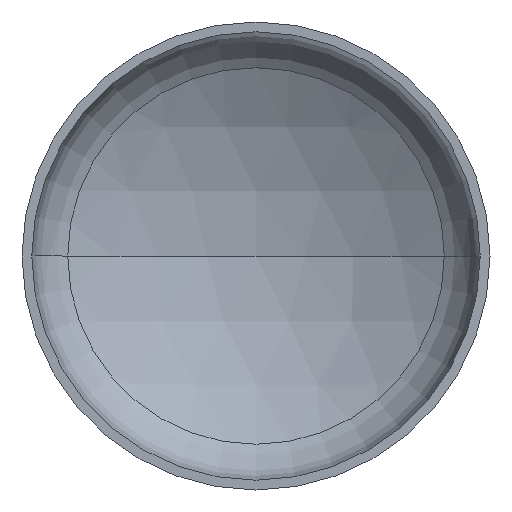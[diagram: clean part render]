
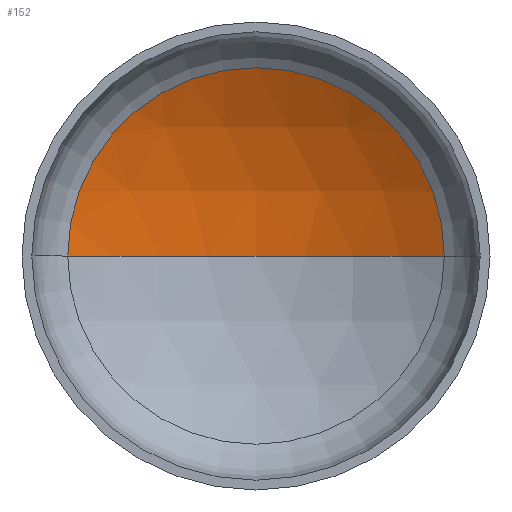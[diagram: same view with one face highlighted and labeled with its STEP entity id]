
A CAD part, front view. The second image highlights one B-rep face of the part: STEP entity #152.
In plain terms, the highlighted spherical face has radius 880 mm.
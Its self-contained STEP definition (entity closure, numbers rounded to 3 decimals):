
#2 = VERTEX_POINT ( 'NONE', #183 ) ;
#9 = AXIS2_PLACEMENT_3D ( 'NONE', #324, #190, #353 ) ;
#12 = AXIS2_PLACEMENT_3D ( 'NONE', #236, #394, #255 ) ;
#21 = AXIS2_PLACEMENT_3D ( 'NONE', #164, #323, #189 ) ;
#25 = ORIENTED_EDGE ( 'NONE', *, *, #368, .T. ) ;
#48 = VERTEX_POINT ( 'NONE', #220 ) ;
#66 = ORIENTED_EDGE ( 'NONE', *, *, #363, .T. ) ;
#67 = VERTEX_POINT ( 'NONE', #211 ) ;
#71 = AXIS2_PLACEMENT_3D ( 'NONE', #226, #247, #407 ) ;
#77 = ORIENTED_EDGE ( 'NONE', *, *, #342, .F. ) ;
#132 = EDGE_LOOP ( 'NONE', ( #77, #66, #25 ) ) ;
#138 = SPHERICAL_SURFACE ( 'NONE', #71, 880. ) ;
#152 = ADVANCED_FACE ( 'NONE', ( #213 ), #138, .F. ) ;
#164 = CARTESIAN_POINT ( 'NONE',  ( 0., -543.719, 0. ) ) ;
#183 = CARTESIAN_POINT ( 'NONE',  ( -442.479, 216.947, 0. ) ) ;
#189 = DIRECTION ( 'NONE',  ( 1., 0., 0. ) ) ;
#190 = DIRECTION ( 'NONE',  ( 0., 0., -1. ) ) ;
#211 = CARTESIAN_POINT ( 'NONE',  ( 442.479, 216.947, 0. ) ) ;
#213 = FACE_OUTER_BOUND ( 'NONE', #132, .T. ) ;
#219 = CIRCLE ( 'NONE', #12, 442.479 ) ;
#220 = CARTESIAN_POINT ( 'NONE',  ( 0., 336.281, 0. ) ) ;
#226 = CARTESIAN_POINT ( 'NONE',  ( 0., -543.719, 0. ) ) ;
#236 = CARTESIAN_POINT ( 'NONE',  ( 0., 216.947, 0. ) ) ;
#247 = DIRECTION ( 'NONE',  ( 0., 0., -1. ) ) ;
#255 = DIRECTION ( 'NONE',  ( 1., 0., 0. ) ) ;
#323 = DIRECTION ( 'NONE',  ( 0., 0., 1. ) ) ;
#324 = CARTESIAN_POINT ( 'NONE',  ( 0., -543.719, 0. ) ) ;
#342 = EDGE_CURVE ( 'NONE', #48, #2, #397, .T. ) ;
#353 = DIRECTION ( 'NONE',  ( -1., 0., 0. ) ) ;
#363 = EDGE_CURVE ( 'NONE', #48, #67, #387, .T. ) ;
#368 = EDGE_CURVE ( 'NONE', #67, #2, #219, .T. ) ;
#387 = CIRCLE ( 'NONE', #9, 880. ) ;
#394 = DIRECTION ( 'NONE',  ( 0., -1., 0. ) ) ;
#397 = CIRCLE ( 'NONE', #21, 880. ) ;
#407 = DIRECTION ( 'NONE',  ( -1., 0., 0. ) ) ;
